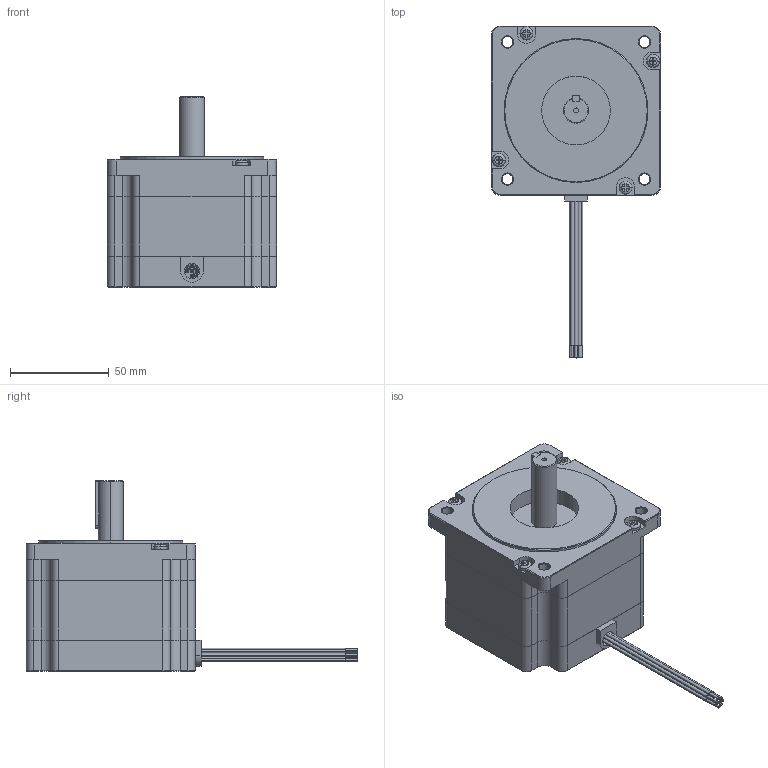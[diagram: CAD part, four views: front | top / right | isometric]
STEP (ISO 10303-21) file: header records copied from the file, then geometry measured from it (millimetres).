
FILE_DESCRIPTION (( 'STEP AP214' ), '1' );
FILE_NAME ('34Y008S-LW8.STEP', '2010-06-09T18:37:37', ( 'Tim Raines' ), ( 'Anaheim Automation' ), 'SwSTEP 2.0', 'SolidWorks 2010', '' );
FILE_SCHEMA (( 'AUTOMOTIVE_DESIGN' ));
Length unit declared in the file: inch
Products named in the file (1): 34Y008S-LW8
Bounding box: 85.85 x 168.4 x 96.77 mm (x, y, z)
Volume: 441366.7 mm3; surface area: 44007.3 mm2
Topology: 1 solids, 1 shells, 366 faces, 921 edges, 584 vertices
Faces by surface type: plane 178, cylinder 125, cone 55, torus 8
Entity records: 15843 total; most frequent: CARTESIAN_POINT 2157, DIRECTION 1905, ORIENTED_EDGE 1826, EDGE_CURVE 913, AXIS2_PLACEMENT_3D 686, VERTEX_POINT 584, LINE 533, VECTOR 533
